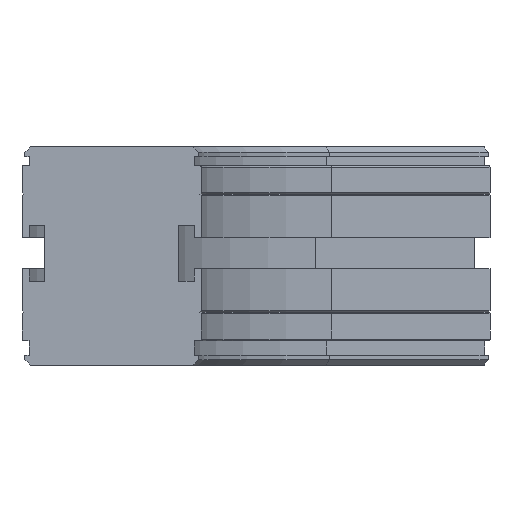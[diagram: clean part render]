
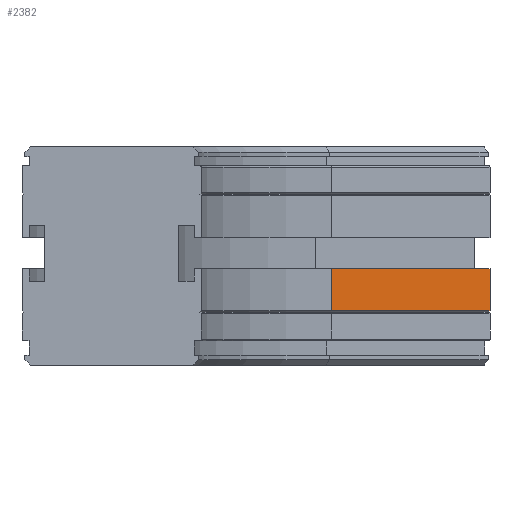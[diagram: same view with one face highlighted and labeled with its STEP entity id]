
A CAD part, left-side view. The second image highlights one B-rep face of the part: STEP entity #2382.
In plain terms, the highlighted planar face has unit normal (-0.707, -0.707, 0).
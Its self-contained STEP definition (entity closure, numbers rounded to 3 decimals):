
#2326=CARTESIAN_POINT('',(248.999,-135.139,-58.5));
#2327=VERTEX_POINT('',#2326);
#2334=CARTESIAN_POINT('',(192.43,-78.57,-58.5));
#2335=VERTEX_POINT('',#2334);
#2336=CARTESIAN_POINT('',(192.43,-78.57,-58.5));
#2337=DIRECTION('',(0.707,-0.707,0.0));
#2338=VECTOR('',#2337,80.);
#2339=LINE('',#2336,#2338);
#2340=EDGE_CURVE('',#2335,#2327,#2339,.T.);
#2352=CARTESIAN_POINT('',(192.43,-78.57,-58.5));
#2353=DIRECTION('',(-0.707,-0.707,0.));
#2354=DIRECTION('',(0.0,0.0,1.0));
#2355=AXIS2_PLACEMENT_3D('',#2352,#2353,#2354);
#2356=PLANE('',#2355);
#2357=CARTESIAN_POINT('',(248.999,-135.139,-43.5));
#2358=VERTEX_POINT('',#2357);
#2359=CARTESIAN_POINT('',(248.999,-135.139,-58.5));
#2360=DIRECTION('',(0.0,0.0,1.0));
#2361=VECTOR('',#2360,15.);
#2362=LINE('',#2359,#2361);
#2363=EDGE_CURVE('',#2327,#2358,#2362,.T.);
#2364=ORIENTED_EDGE('',*,*,#2363,.T.);
#2365=CARTESIAN_POINT('',(192.43,-78.57,-43.5));
#2366=VERTEX_POINT('',#2365);
#2367=CARTESIAN_POINT('',(192.43,-78.57,-43.5));
#2368=DIRECTION('',(0.707,-0.707,0.0));
#2369=VECTOR('',#2368,80.);
#2370=LINE('',#2367,#2369);
#2371=EDGE_CURVE('',#2366,#2358,#2370,.T.);
#2372=ORIENTED_EDGE('',*,*,#2371,.F.);
#2373=CARTESIAN_POINT('',(192.43,-78.57,-58.5));
#2374=DIRECTION('',(0.0,0.0,1.0));
#2375=VECTOR('',#2374,15.);
#2376=LINE('',#2373,#2375);
#2377=EDGE_CURVE('',#2335,#2366,#2376,.T.);
#2378=ORIENTED_EDGE('',*,*,#2377,.F.);
#2379=ORIENTED_EDGE('',*,*,#2340,.T.);
#2380=EDGE_LOOP('',(#2364,#2372,#2378,#2379));
#2381=FACE_OUTER_BOUND('',#2380,.T.);
#2382=ADVANCED_FACE('',(#2381),#2356,.T.);
